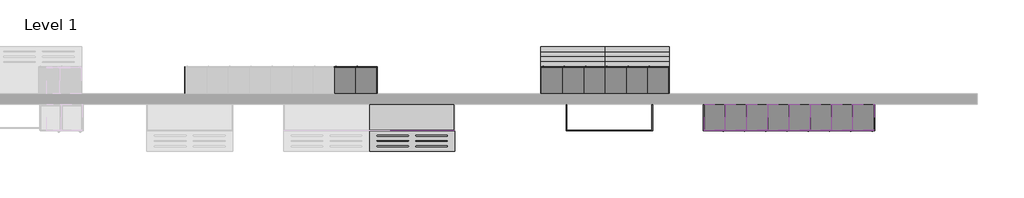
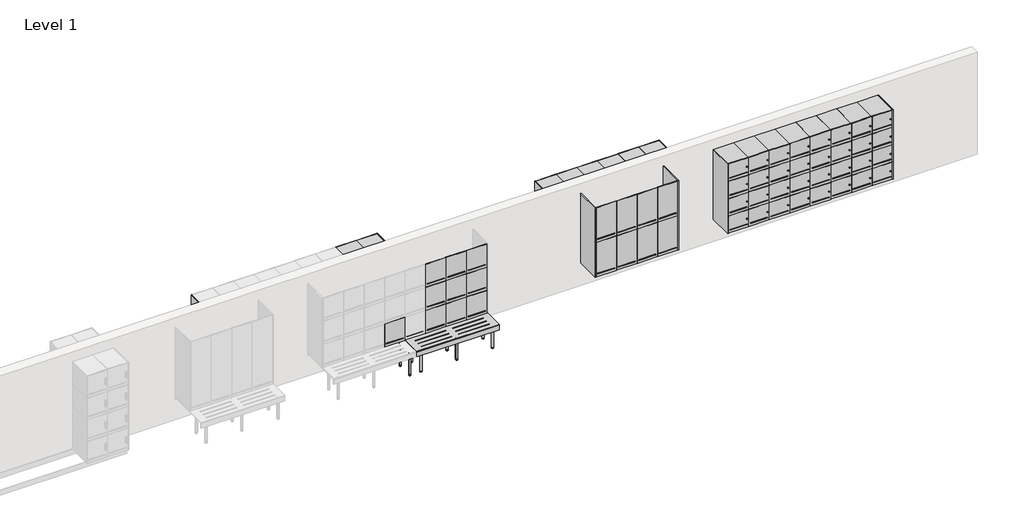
# One storey, part 3 of 3: 128 furniture elements.
"""IFC4 building model written with IfcOpenShell, lengths in millimetres."""

from ifc_helpers import new_model, si_unit, origin, place, context, project, spatial, transform, mapped, element, save
from components import furniture_7293fc8f, furniture_05545089, furniture_83d2262f, furniture_6c30b95b, standard_2dcb62da, standard_f5ae554c, standard_45df0485, standard_98e0e482, standard_13bdcb3e, standard_06cb4884, standard_31d623df, standard_40445af7, standard_a614ba5f, standard_bf09c246, standard_42a54a5f, standard_04b66620

model = new_model("IFC4")

# Units and contexts
model_context = context("Model", 3, world=origin())
ifc_project = project(units=[si_unit("LENGTHUNIT", "METRE", prefix="MILLI")], contexts=[model_context])

# Site, building, storey
site = spatial("IfcSite", under=ifc_project)
building = spatial("IfcBuilding", under=site)
storey = spatial("IfcBuildingStorey", under=building, Name="Level 1", Elevation=0.0)

# Furniture
placement = place(None, origin())
furniture_shape = furniture_7293fc8f(model_context)
element("IfcFurniture", 1, ObjectType="Lockers-Bay-Duracube-Duraloc : LWM-1900h x 500d x 400w @ 470h Wall", at=placement, inside=storey, context=model_context, shape_type="MappedRepresentation", body=[
    mapped(furniture_shape, transform((4264.8424585, 2567.7422336, 0.0), x_axis=(1.0, 0.0, 0.0), y_axis=(0.0, 1.0, 0.0), z_axis=(0.0, 0.0, 1.0))),
])
furniture_2_shape = furniture_05545089(model_context)
element("IfcFurniture", 2, ObjectType="Lockers-Bay-Duracube-Duraloc : LWM-1900h x 500d x 400w @ 470h Wall", at=placement, inside=storey, context=model_context, shape_type="MappedRepresentation", body=[
    mapped(furniture_2_shape, transform((6844.8424585, 2567.7422336, 0.0), x_axis=(1.0, 0.0, 0.0), y_axis=(0.0, 1.0, 0.0), z_axis=(0.0, 0.0, 1.0))),
])
furniture_3_shape = furniture_83d2262f(model_context)
element("IfcFurniture", 3, ObjectType="Lockers-Bay-Duracube-Duraloc : LSBM-1900h x 500d x 400w with 470h Shoe Box Mount", at=placement, inside=storey, context=model_context, shape_type="MappedRepresentation", body=[
    mapped(furniture_3_shape, transform((706.8576586, 3267.7422336, 0.0), x_axis=(-1.0, 0.0, 0.0), y_axis=(0.0, -1.0, 0.0), z_axis=(0.0, 0.0, 1.0))),
])
furniture_4_shape = furniture_6c30b95b(model_context)
element("IfcFurniture", 4, ObjectType="Lockers-Bay-Duracube-Duraloc : LSBSM-1900h x 500d x 400w with 470h Shoe Box Bench", at=placement, inside=storey, context=model_context, shape_type="MappedRepresentation", body=[
    mapped(furniture_4_shape, transform((6206.8576586, 3267.7422336, 0.0), x_axis=(-1.0, 0.0, 0.0), y_axis=(0.0, -1.0, 0.0), z_axis=(0.0, 0.0, 1.0))),
])
standard_shape = standard_2dcb62da(model_context)
element("IfcFurniture", 5, ObjectType="X_Bench-Foot-Duracube-Wall Assembly : Standard", at=placement, inside=storey, context=model_context, shape_type="MappedRepresentation", body=[
    mapped(standard_shape, transform((626.642132, 2317.7422336, 0.0), x_axis=(1.0, 0.0, 0.0), y_axis=(0.0, 1.0, 0.0), z_axis=(0.0, 0.0, 1.0))),
])
element("IfcFurniture", 6, ObjectType="X_Bench-Foot-Duracube-Wall Assembly : Standard", at=placement, inside=storey, context=model_context, shape_type="MappedRepresentation", body=[
    mapped(standard_shape, transform((1319.642132, 2317.7422336, 0.0), x_axis=(1.0, 0.0, 0.0), y_axis=(0.0, 1.0, 0.0), z_axis=(0.0, 0.0, 1.0))),
])
standard_2_shape = standard_f5ae554c(model_context)
element("IfcFurniture", 7, ObjectType="X_Bench-Foot-Duracube-Wall Assembly : Standard", at=placement, inside=storey, context=model_context, shape_type="MappedRepresentation", body=[
    mapped(standard_2_shape, transform((2102.0427849, 2317.7422336, 0.0), x_axis=(-1.0, 0.0, 0.0), y_axis=(0.0, -1.0, 0.0), z_axis=(0.0, 0.0, 1.0))),
])
element("IfcFurniture", 8, ObjectType="X_Bench-Foot-Duracube-Wall Assembly : Standard", at=placement, inside=storey, context=model_context, shape_type="MappedRepresentation", body=[
    mapped(standard_2_shape, transform((489.0427849, 2317.7422336, 0.0), x_axis=(-1.0, 0.0, 0.0), y_axis=(0.0, -1.0, 0.0), z_axis=(0.0, 0.0, 1.0))),
])
standard_3_shape = standard_45df0485(model_context)
element("IfcFurniture", 9, ObjectType="X_Vanity-Angle-Duracube-Bench Support : Standard", at=placement, inside=storey, context=model_context, shape_type="MappedRepresentation", body=[
    mapped(standard_3_shape, transform((1319.642132, 2817.7422336, 417.0), x_axis=(1.0, 0.0, 0.0), y_axis=(0.0, 1.0, 0.0), z_axis=(0.0, 0.0, 1.0))),
])
standard_4_shape = standard_98e0e482(model_context)
element("IfcFurniture", 10, ObjectType="X_Bench-Wall-Duracube-Locker : Standard", at=placement, inside=storey, context=model_context, shape_type="MappedRepresentation", body=[
    mapped(standard_4_shape, transform((1319.642132, 2725.2422336, 0.0), x_axis=(1.0, 0.0, 0.0), y_axis=(0.0, 1.0, 0.0), z_axis=(0.0, 0.0, 1.0))),
])
standard_5_shape = standard_13bdcb3e(model_context)
element("IfcFurniture", 11, ObjectType="X_Vanity-Angle-Duracube-Bench Support : Standard", at=placement, inside=storey, context=model_context, shape_type="MappedRepresentation", body=[
    mapped(standard_5_shape, transform((5645.057985, 3017.7422336, 430.0), x_axis=(-1.0, 0.0, 0.0), y_axis=(0.0, -1.0, 0.0), z_axis=(0.0, 0.0, 1.0))),
])
element("IfcFurniture", 12, ObjectType="X_Vanity-Angle-Duracube-Bench Support : Standard", at=placement, inside=storey, context=model_context, shape_type="MappedRepresentation", body=[
    mapped(standard_5_shape, transform((4432.057985, 3017.7422336, 430.0), x_axis=(-1.0, 0.0, 0.0), y_axis=(0.0, -1.0, 0.0), z_axis=(0.0, 0.0, 1.0))),
])
standard_6_shape = standard_06cb4884(model_context)
element("IfcFurniture", 13, ObjectType="X_Locker-Duracube-Door : Standard", at=placement, inside=storey, context=model_context, shape_type="MappedRepresentation", body=[
    mapped(standard_6_shape, transform((1913.142132, 2330.7422336, 1423.3333333), x_axis=(1.0, 0.0, 0.0), y_axis=(0.0, 1.0, 0.0), z_axis=(0.0, 0.0, 1.0))),
])
element("IfcFurniture", 14, ObjectType="X_Locker-Duracube-Door : Standard", at=placement, inside=storey, context=model_context, shape_type="MappedRepresentation", body=[
    mapped(standard_6_shape, transform((1513.142132, 2330.7422336, 1423.3333333), x_axis=(1.0, 0.0, 0.0), y_axis=(0.0, 1.0, 0.0), z_axis=(0.0, 0.0, 1.0))),
])
element("IfcFurniture", 15, ObjectType="X_Locker-Duracube-Door : Standard", at=placement, inside=storey, context=model_context, shape_type="MappedRepresentation", body=[
    mapped(standard_6_shape, transform((1113.142132, 2330.7422336, 1423.3333333), x_axis=(1.0, 0.0, 0.0), y_axis=(0.0, 1.0, 0.0), z_axis=(0.0, 0.0, 1.0))),
])
element("IfcFurniture", 16, ObjectType="X_Locker-Duracube-Door : Standard", at=placement, inside=storey, context=model_context, shape_type="MappedRepresentation", body=[
    mapped(standard_6_shape, transform((1913.142132, 2330.7422336, 946.6666667), x_axis=(1.0, 0.0, 0.0), y_axis=(0.0, 1.0, 0.0), z_axis=(0.0, 0.0, 1.0))),
])
element("IfcFurniture", 17, ObjectType="X_Locker-Duracube-Door : Standard", at=placement, inside=storey, context=model_context, shape_type="MappedRepresentation", body=[
    mapped(standard_6_shape, transform((1513.142132, 2330.7422336, 946.6666667), x_axis=(1.0, 0.0, 0.0), y_axis=(0.0, 1.0, 0.0), z_axis=(0.0, 0.0, 1.0))),
])
element("IfcFurniture", 18, ObjectType="X_Locker-Duracube-Door : Standard", at=placement, inside=storey, context=model_context, shape_type="MappedRepresentation", body=[
    mapped(standard_6_shape, transform((1113.142132, 2330.7422336, 946.6666667), x_axis=(1.0, 0.0, 0.0), y_axis=(0.0, 1.0, 0.0), z_axis=(0.0, 0.0, 1.0))),
])
element("IfcFurniture", 19, ObjectType="X_Locker-Duracube-Door : Standard", at=placement, inside=storey, context=model_context, shape_type="MappedRepresentation", body=[
    mapped(standard_6_shape, transform((1913.142132, 2330.7422336, 470.0), x_axis=(1.0, 0.0, 0.0), y_axis=(0.0, 1.0, 0.0), z_axis=(0.0, 0.0, 1.0))),
])
element("IfcFurniture", 20, ObjectType="X_Locker-Duracube-Door : Standard", at=placement, inside=storey, context=model_context, shape_type="MappedRepresentation", body=[
    mapped(standard_6_shape, transform((1513.142132, 2330.7422336, 470.0), x_axis=(1.0, 0.0, 0.0), y_axis=(0.0, 1.0, 0.0), z_axis=(0.0, 0.0, 1.0))),
])
element("IfcFurniture", 21, ObjectType="X_Locker-Duracube-Door : Standard", at=placement, inside=storey, context=model_context, shape_type="MappedRepresentation", body=[
    mapped(standard_6_shape, transform((1113.142132, 2330.7422336, 470.0), x_axis=(1.0, 0.0, 0.0), y_axis=(0.0, 1.0, 0.0), z_axis=(0.0, 0.0, 1.0))),
])
element("IfcFurniture", 22, ObjectType="X_Locker-Duracube-Door : Standard", at=placement, inside=storey, context=model_context, shape_type="MappedRepresentation", body=[
    mapped(standard_6_shape, transform((313.142132, 2330.7422336, 470.0), x_axis=(1.0, 0.0, 0.0), y_axis=(0.0, 1.0, 0.0), z_axis=(0.0, 0.0, 1.0))),
])
standard_7_shape = standard_31d623df(model_context)
element("IfcFurniture", 23, ObjectType="X_Locker-Duracube-Door : Standard", at=placement, inside=storey, context=model_context, shape_type="MappedRepresentation", body=[
    mapped(standard_7_shape, transform((5633.142132, 2330.7422336, 1185.0), x_axis=(1.0, 0.0, 0.0), y_axis=(0.0, 1.0, 0.0), z_axis=(0.0, 0.0, 1.0))),
])
element("IfcFurniture", 24, ObjectType="X_Locker-Duracube-Door : Standard", at=placement, inside=storey, context=model_context, shape_type="MappedRepresentation", body=[
    mapped(standard_7_shape, transform((5233.142132, 2330.7422336, 1185.0), x_axis=(1.0, 0.0, 0.0), y_axis=(0.0, 1.0, 0.0), z_axis=(0.0, 0.0, 1.0))),
])
element("IfcFurniture", 25, ObjectType="X_Locker-Duracube-Door : Standard", at=placement, inside=storey, context=model_context, shape_type="MappedRepresentation", body=[
    mapped(standard_7_shape, transform((5633.142132, 2330.7422336, 470.0), x_axis=(1.0, 0.0, 0.0), y_axis=(0.0, 1.0, 0.0), z_axis=(0.0, 0.0, 1.0))),
])
element("IfcFurniture", 26, ObjectType="X_Locker-Duracube-Door : Standard", at=placement, inside=storey, context=model_context, shape_type="MappedRepresentation", body=[
    mapped(standard_7_shape, transform((5233.142132, 2330.7422336, 470.0), x_axis=(1.0, 0.0, 0.0), y_axis=(0.0, 1.0, 0.0), z_axis=(0.0, 0.0, 1.0))),
])
element("IfcFurniture", 27, ObjectType="X_Locker-Duracube-Door : Standard", at=placement, inside=storey, context=model_context, shape_type="MappedRepresentation", body=[
    mapped(standard_7_shape, transform((4833.142132, 2330.7422336, 1185.0), x_axis=(1.0, 0.0, 0.0), y_axis=(0.0, 1.0, 0.0), z_axis=(0.0, 0.0, 1.0))),
])
element("IfcFurniture", 28, ObjectType="X_Locker-Duracube-Door : Standard", at=placement, inside=storey, context=model_context, shape_type="MappedRepresentation", body=[
    mapped(standard_7_shape, transform((4833.142132, 2330.7422336, 470.0), x_axis=(1.0, 0.0, 0.0), y_axis=(0.0, 1.0, 0.0), z_axis=(0.0, 0.0, 1.0))),
])
element("IfcFurniture", 29, ObjectType="X_Locker-Duracube-Door : Standard", at=placement, inside=storey, context=model_context, shape_type="MappedRepresentation", body=[
    mapped(standard_7_shape, transform((4433.142132, 2330.7422336, 1185.0), x_axis=(1.0, 0.0, 0.0), y_axis=(0.0, 1.0, 0.0), z_axis=(0.0, 0.0, 1.0))),
])
element("IfcFurniture", 30, ObjectType="X_Locker-Duracube-Door : Standard", at=placement, inside=storey, context=model_context, shape_type="MappedRepresentation", body=[
    mapped(standard_7_shape, transform((4433.142132, 2330.7422336, 470.0), x_axis=(1.0, 0.0, 0.0), y_axis=(0.0, 1.0, 0.0), z_axis=(0.0, 0.0, 1.0))),
])
element("IfcFurniture", 31, ObjectType="X_Locker-Duracube-Door : Standard", at=placement, inside=storey, context=model_context, shape_type="MappedRepresentation", body=[
    mapped(standard_7_shape, transform((138.557985, 3504.7422336, 1185.0), x_axis=(-1.0, 0.0, 0.0), y_axis=(0.0, -1.0, 0.0), z_axis=(0.0, 0.0, 1.0))),
])
element("IfcFurniture", 32, ObjectType="X_Locker-Duracube-Door : Standard", at=placement, inside=storey, context=model_context, shape_type="MappedRepresentation", body=[
    mapped(standard_7_shape, transform((138.557985, 3504.7422336, 470.0), x_axis=(-1.0, 0.0, 0.0), y_axis=(0.0, -1.0, 0.0), z_axis=(0.0, 0.0, 1.0))),
])
element("IfcFurniture", 33, ObjectType="X_Locker-Duracube-Door : Standard", at=placement, inside=storey, context=model_context, shape_type="MappedRepresentation", body=[
    mapped(standard_7_shape, transform((538.557985, 3504.7422336, 1185.0), x_axis=(-1.0, 0.0, 0.0), y_axis=(0.0, -1.0, 0.0), z_axis=(0.0, 0.0, 1.0))),
])
element("IfcFurniture", 34, ObjectType="X_Locker-Duracube-Door : Standard", at=placement, inside=storey, context=model_context, shape_type="MappedRepresentation", body=[
    mapped(standard_7_shape, transform((538.557985, 3504.7422336, 470.0), x_axis=(-1.0, 0.0, 0.0), y_axis=(0.0, -1.0, 0.0), z_axis=(0.0, 0.0, 1.0))),
])
element("IfcFurniture", 35, ObjectType="X_Locker-Duracube-Door : Standard", at=placement, inside=storey, context=model_context, shape_type="MappedRepresentation", body=[
    mapped(standard_7_shape, transform((4038.557985, 3504.7422336, 1185.0), x_axis=(-1.0, 0.0, 0.0), y_axis=(0.0, -1.0, 0.0), z_axis=(0.0, 0.0, 1.0))),
])
element("IfcFurniture", 36, ObjectType="X_Locker-Duracube-Door : Standard", at=placement, inside=storey, context=model_context, shape_type="MappedRepresentation", body=[
    mapped(standard_7_shape, transform((4438.557985, 3504.7422336, 1185.0), x_axis=(-1.0, 0.0, 0.0), y_axis=(0.0, -1.0, 0.0), z_axis=(0.0, 0.0, 1.0))),
])
element("IfcFurniture", 37, ObjectType="X_Locker-Duracube-Door : Standard", at=placement, inside=storey, context=model_context, shape_type="MappedRepresentation", body=[
    mapped(standard_7_shape, transform((4838.557985, 3504.7422336, 1185.0), x_axis=(-1.0, 0.0, 0.0), y_axis=(0.0, -1.0, 0.0), z_axis=(0.0, 0.0, 1.0))),
])
element("IfcFurniture", 38, ObjectType="X_Locker-Duracube-Door : Standard", at=placement, inside=storey, context=model_context, shape_type="MappedRepresentation", body=[
    mapped(standard_7_shape, transform((5238.557985, 3504.7422336, 1185.0), x_axis=(-1.0, 0.0, 0.0), y_axis=(0.0, -1.0, 0.0), z_axis=(0.0, 0.0, 1.0))),
])
element("IfcFurniture", 39, ObjectType="X_Locker-Duracube-Door : Standard", at=placement, inside=storey, context=model_context, shape_type="MappedRepresentation", body=[
    mapped(standard_7_shape, transform((4038.557985, 3504.7422336, 470.0), x_axis=(-1.0, 0.0, 0.0), y_axis=(0.0, -1.0, 0.0), z_axis=(0.0, 0.0, 1.0))),
])
element("IfcFurniture", 40, ObjectType="X_Locker-Duracube-Door : Standard", at=placement, inside=storey, context=model_context, shape_type="MappedRepresentation", body=[
    mapped(standard_7_shape, transform((4438.557985, 3504.7422336, 470.0), x_axis=(-1.0, 0.0, 0.0), y_axis=(0.0, -1.0, 0.0), z_axis=(0.0, 0.0, 1.0))),
])
element("IfcFurniture", 41, ObjectType="X_Locker-Duracube-Door : Standard", at=placement, inside=storey, context=model_context, shape_type="MappedRepresentation", body=[
    mapped(standard_7_shape, transform((4838.557985, 3504.7422336, 470.0), x_axis=(-1.0, 0.0, 0.0), y_axis=(0.0, -1.0, 0.0), z_axis=(0.0, 0.0, 1.0))),
])
element("IfcFurniture", 42, ObjectType="X_Locker-Duracube-Door : Standard", at=placement, inside=storey, context=model_context, shape_type="MappedRepresentation", body=[
    mapped(standard_7_shape, transform((5238.557985, 3504.7422336, 470.0), x_axis=(-1.0, 0.0, 0.0), y_axis=(0.0, -1.0, 0.0), z_axis=(0.0, 0.0, 1.0))),
])
element("IfcFurniture", 43, ObjectType="X_Locker-Duracube-Door : Standard", at=placement, inside=storey, context=model_context, shape_type="MappedRepresentation", body=[
    mapped(standard_7_shape, transform((5638.557985, 3504.7422336, 1185.0), x_axis=(-1.0, 0.0, 0.0), y_axis=(0.0, -1.0, 0.0), z_axis=(0.0, 0.0, 1.0))),
])
element("IfcFurniture", 44, ObjectType="X_Locker-Duracube-Door : Standard", at=placement, inside=storey, context=model_context, shape_type="MappedRepresentation", body=[
    mapped(standard_7_shape, transform((5638.557985, 3504.7422336, 470.0), x_axis=(-1.0, 0.0, 0.0), y_axis=(0.0, -1.0, 0.0), z_axis=(0.0, 0.0, 1.0))),
])
element("IfcFurniture", 45, ObjectType="X_Locker-Duracube-Door : Standard", at=placement, inside=storey, context=model_context, shape_type="MappedRepresentation", body=[
    mapped(standard_7_shape, transform((6038.557985, 3504.7422336, 1185.0), x_axis=(-1.0, 0.0, 0.0), y_axis=(0.0, -1.0, 0.0), z_axis=(0.0, 0.0, 1.0))),
])
element("IfcFurniture", 46, ObjectType="X_Locker-Duracube-Door : Standard", at=placement, inside=storey, context=model_context, shape_type="MappedRepresentation", body=[
    mapped(standard_7_shape, transform((6038.557985, 3504.7422336, 470.0), x_axis=(-1.0, 0.0, 0.0), y_axis=(0.0, -1.0, 0.0), z_axis=(0.0, 0.0, 1.0))),
])
standard_8_shape = standard_40445af7(model_context)
element("IfcFurniture", 47, ObjectType="X_Locker-Duracube-Bay : Standard", at=placement, inside=storey, context=model_context, shape_type="MappedRepresentation", body=[
    mapped(standard_8_shape, transform((9813.142132, 2817.7422336, 1542.5), x_axis=(1.0, 0.0, 0.0), y_axis=(0.0, 1.0, 0.0), z_axis=(0.0, 0.0, 1.0))),
])
element("IfcFurniture", 48, ObjectType="X_Locker-Duracube-Bay : Standard", at=placement, inside=storey, context=model_context, shape_type="MappedRepresentation", body=[
    mapped(standard_8_shape, transform((9413.142132, 2817.7422336, 1542.5), x_axis=(1.0, 0.0, 0.0), y_axis=(0.0, 1.0, 0.0), z_axis=(0.0, 0.0, 1.0))),
])
element("IfcFurniture", 49, ObjectType="X_Locker-Duracube-Bay : Standard", at=placement, inside=storey, context=model_context, shape_type="MappedRepresentation", body=[
    mapped(standard_8_shape, transform((9013.142132, 2817.7422336, 1542.5), x_axis=(1.0, 0.0, 0.0), y_axis=(0.0, 1.0, 0.0), z_axis=(0.0, 0.0, 1.0))),
])
element("IfcFurniture", 50, ObjectType="X_Locker-Duracube-Bay : Standard", at=placement, inside=storey, context=model_context, shape_type="MappedRepresentation", body=[
    mapped(standard_8_shape, transform((8613.142132, 2817.7422336, 1542.5), x_axis=(1.0, 0.0, 0.0), y_axis=(0.0, 1.0, 0.0), z_axis=(0.0, 0.0, 1.0))),
])
element("IfcFurniture", 51, ObjectType="X_Locker-Duracube-Bay : Standard", at=placement, inside=storey, context=model_context, shape_type="MappedRepresentation", body=[
    mapped(standard_8_shape, transform((8213.142132, 2817.7422336, 1542.5), x_axis=(1.0, 0.0, 0.0), y_axis=(0.0, 1.0, 0.0), z_axis=(0.0, 0.0, 1.0))),
])
element("IfcFurniture", 52, ObjectType="X_Locker-Duracube-Bay : Standard", at=placement, inside=storey, context=model_context, shape_type="MappedRepresentation", body=[
    mapped(standard_8_shape, transform((7813.142132, 2817.7422336, 1542.5), x_axis=(1.0, 0.0, 0.0), y_axis=(0.0, 1.0, 0.0), z_axis=(0.0, 0.0, 1.0))),
])
element("IfcFurniture", 53, ObjectType="X_Locker-Duracube-Bay : Standard", at=placement, inside=storey, context=model_context, shape_type="MappedRepresentation", body=[
    mapped(standard_8_shape, transform((9813.142132, 2817.7422336, 1185.0), x_axis=(1.0, 0.0, 0.0), y_axis=(0.0, 1.0, 0.0), z_axis=(0.0, 0.0, 1.0))),
])
element("IfcFurniture", 54, ObjectType="X_Locker-Duracube-Bay : Standard", at=placement, inside=storey, context=model_context, shape_type="MappedRepresentation", body=[
    mapped(standard_8_shape, transform((9413.142132, 2817.7422336, 1185.0), x_axis=(1.0, 0.0, 0.0), y_axis=(0.0, 1.0, 0.0), z_axis=(0.0, 0.0, 1.0))),
])
element("IfcFurniture", 55, ObjectType="X_Locker-Duracube-Bay : Standard", at=placement, inside=storey, context=model_context, shape_type="MappedRepresentation", body=[
    mapped(standard_8_shape, transform((9013.142132, 2817.7422336, 1185.0), x_axis=(1.0, 0.0, 0.0), y_axis=(0.0, 1.0, 0.0), z_axis=(0.0, 0.0, 1.0))),
])
element("IfcFurniture", 56, ObjectType="X_Locker-Duracube-Bay : Standard", at=placement, inside=storey, context=model_context, shape_type="MappedRepresentation", body=[
    mapped(standard_8_shape, transform((8613.142132, 2817.7422336, 1185.0), x_axis=(1.0, 0.0, 0.0), y_axis=(0.0, 1.0, 0.0), z_axis=(0.0, 0.0, 1.0))),
])
element("IfcFurniture", 57, ObjectType="X_Locker-Duracube-Bay : Standard", at=placement, inside=storey, context=model_context, shape_type="MappedRepresentation", body=[
    mapped(standard_8_shape, transform((8213.142132, 2817.7422336, 1185.0), x_axis=(1.0, 0.0, 0.0), y_axis=(0.0, 1.0, 0.0), z_axis=(0.0, 0.0, 1.0))),
])
element("IfcFurniture", 58, ObjectType="X_Locker-Duracube-Bay : Standard", at=placement, inside=storey, context=model_context, shape_type="MappedRepresentation", body=[
    mapped(standard_8_shape, transform((7813.142132, 2817.7422336, 1185.0), x_axis=(1.0, 0.0, 0.0), y_axis=(0.0, 1.0, 0.0), z_axis=(0.0, 0.0, 1.0))),
])
element("IfcFurniture", 59, ObjectType="X_Locker-Duracube-Bay : Standard", at=placement, inside=storey, context=model_context, shape_type="MappedRepresentation", body=[
    mapped(standard_8_shape, transform((9813.142132, 2817.7422336, 827.5), x_axis=(1.0, 0.0, 0.0), y_axis=(0.0, 1.0, 0.0), z_axis=(0.0, 0.0, 1.0))),
])
element("IfcFurniture", 60, ObjectType="X_Locker-Duracube-Bay : Standard", at=placement, inside=storey, context=model_context, shape_type="MappedRepresentation", body=[
    mapped(standard_8_shape, transform((9413.142132, 2817.7422336, 827.5), x_axis=(1.0, 0.0, 0.0), y_axis=(0.0, 1.0, 0.0), z_axis=(0.0, 0.0, 1.0))),
])
element("IfcFurniture", 61, ObjectType="X_Locker-Duracube-Bay : Standard", at=placement, inside=storey, context=model_context, shape_type="MappedRepresentation", body=[
    mapped(standard_8_shape, transform((9013.142132, 2817.7422336, 827.5), x_axis=(1.0, 0.0, 0.0), y_axis=(0.0, 1.0, 0.0), z_axis=(0.0, 0.0, 1.0))),
])
element("IfcFurniture", 62, ObjectType="X_Locker-Duracube-Bay : Standard", at=placement, inside=storey, context=model_context, shape_type="MappedRepresentation", body=[
    mapped(standard_8_shape, transform((8613.142132, 2817.7422336, 827.5), x_axis=(1.0, 0.0, 0.0), y_axis=(0.0, 1.0, 0.0), z_axis=(0.0, 0.0, 1.0))),
])
element("IfcFurniture", 63, ObjectType="X_Locker-Duracube-Bay : Standard", at=placement, inside=storey, context=model_context, shape_type="MappedRepresentation", body=[
    mapped(standard_8_shape, transform((8213.142132, 2817.7422336, 827.5), x_axis=(1.0, 0.0, 0.0), y_axis=(0.0, 1.0, 0.0), z_axis=(0.0, 0.0, 1.0))),
])
element("IfcFurniture", 64, ObjectType="X_Locker-Duracube-Bay : Standard", at=placement, inside=storey, context=model_context, shape_type="MappedRepresentation", body=[
    mapped(standard_8_shape, transform((7813.142132, 2817.7422336, 827.5), x_axis=(1.0, 0.0, 0.0), y_axis=(0.0, 1.0, 0.0), z_axis=(0.0, 0.0, 1.0))),
])
element("IfcFurniture", 65, ObjectType="X_Locker-Duracube-Bay : Standard", at=placement, inside=storey, context=model_context, shape_type="MappedRepresentation", body=[
    mapped(standard_8_shape, transform((9813.142132, 2817.7422336, 470.0), x_axis=(1.0, 0.0, 0.0), y_axis=(0.0, 1.0, 0.0), z_axis=(0.0, 0.0, 1.0))),
])
element("IfcFurniture", 66, ObjectType="X_Locker-Duracube-Bay : Standard", at=placement, inside=storey, context=model_context, shape_type="MappedRepresentation", body=[
    mapped(standard_8_shape, transform((9413.142132, 2817.7422336, 470.0), x_axis=(1.0, 0.0, 0.0), y_axis=(0.0, 1.0, 0.0), z_axis=(0.0, 0.0, 1.0))),
])
element("IfcFurniture", 67, ObjectType="X_Locker-Duracube-Bay : Standard", at=placement, inside=storey, context=model_context, shape_type="MappedRepresentation", body=[
    mapped(standard_8_shape, transform((9013.142132, 2817.7422336, 470.0), x_axis=(1.0, 0.0, 0.0), y_axis=(0.0, 1.0, 0.0), z_axis=(0.0, 0.0, 1.0))),
])
element("IfcFurniture", 68, ObjectType="X_Locker-Duracube-Bay : Standard", at=placement, inside=storey, context=model_context, shape_type="MappedRepresentation", body=[
    mapped(standard_8_shape, transform((8613.142132, 2817.7422336, 470.0), x_axis=(1.0, 0.0, 0.0), y_axis=(0.0, 1.0, 0.0), z_axis=(0.0, 0.0, 1.0))),
])
element("IfcFurniture", 69, ObjectType="X_Locker-Duracube-Bay : Standard", at=placement, inside=storey, context=model_context, shape_type="MappedRepresentation", body=[
    mapped(standard_8_shape, transform((8213.142132, 2817.7422336, 470.0), x_axis=(1.0, 0.0, 0.0), y_axis=(0.0, 1.0, 0.0), z_axis=(0.0, 0.0, 1.0))),
])
element("IfcFurniture", 70, ObjectType="X_Locker-Duracube-Bay : Standard", at=placement, inside=storey, context=model_context, shape_type="MappedRepresentation", body=[
    mapped(standard_8_shape, transform((7813.142132, 2817.7422336, 470.0), x_axis=(1.0, 0.0, 0.0), y_axis=(0.0, 1.0, 0.0), z_axis=(0.0, 0.0, 1.0))),
])
element("IfcFurniture", 71, ObjectType="X_Locker-Duracube-Bay : Standard", at=placement, inside=storey, context=model_context, shape_type="MappedRepresentation", body=[
    mapped(standard_8_shape, transform((7413.142132, 2817.7422336, 1542.5), x_axis=(1.0, 0.0, 0.0), y_axis=(0.0, 1.0, 0.0), z_axis=(0.0, 0.0, 1.0))),
])
element("IfcFurniture", 72, ObjectType="X_Locker-Duracube-Bay : Standard", at=placement, inside=storey, context=model_context, shape_type="MappedRepresentation", body=[
    mapped(standard_8_shape, transform((7413.142132, 2817.7422336, 1185.0), x_axis=(1.0, 0.0, 0.0), y_axis=(0.0, 1.0, 0.0), z_axis=(0.0, 0.0, 1.0))),
])
element("IfcFurniture", 73, ObjectType="X_Locker-Duracube-Bay : Standard", at=placement, inside=storey, context=model_context, shape_type="MappedRepresentation", body=[
    mapped(standard_8_shape, transform((7413.142132, 2817.7422336, 827.5), x_axis=(1.0, 0.0, 0.0), y_axis=(0.0, 1.0, 0.0), z_axis=(0.0, 0.0, 1.0))),
])
element("IfcFurniture", 74, ObjectType="X_Locker-Duracube-Bay : Standard", at=placement, inside=storey, context=model_context, shape_type="MappedRepresentation", body=[
    mapped(standard_8_shape, transform((7413.142132, 2817.7422336, 470.0), x_axis=(1.0, 0.0, 0.0), y_axis=(0.0, 1.0, 0.0), z_axis=(0.0, 0.0, 1.0))),
])
element("IfcFurniture", 75, ObjectType="X_Locker-Duracube-Bay : Standard", at=placement, inside=storey, context=model_context, shape_type="MappedRepresentation", body=[
    mapped(standard_8_shape, transform((7013.142132, 2817.7422336, 1542.5), x_axis=(1.0, 0.0, 0.0), y_axis=(0.0, 1.0, 0.0), z_axis=(0.0, 0.0, 1.0))),
])
element("IfcFurniture", 76, ObjectType="X_Locker-Duracube-Bay : Standard", at=placement, inside=storey, context=model_context, shape_type="MappedRepresentation", body=[
    mapped(standard_8_shape, transform((7013.142132, 2817.7422336, 1185.0), x_axis=(1.0, 0.0, 0.0), y_axis=(0.0, 1.0, 0.0), z_axis=(0.0, 0.0, 1.0))),
])
element("IfcFurniture", 77, ObjectType="X_Locker-Duracube-Bay : Standard", at=placement, inside=storey, context=model_context, shape_type="MappedRepresentation", body=[
    mapped(standard_8_shape, transform((7013.142132, 2817.7422336, 827.5), x_axis=(1.0, 0.0, 0.0), y_axis=(0.0, 1.0, 0.0), z_axis=(0.0, 0.0, 1.0))),
])
element("IfcFurniture", 78, ObjectType="X_Locker-Duracube-Bay : Standard", at=placement, inside=storey, context=model_context, shape_type="MappedRepresentation", body=[
    mapped(standard_8_shape, transform((7013.142132, 2817.7422336, 470.0), x_axis=(1.0, 0.0, 0.0), y_axis=(0.0, 1.0, 0.0), z_axis=(0.0, 0.0, 1.0))),
])
standard_9_shape = standard_a614ba5f(model_context)
element("IfcFurniture", 79, ObjectType="X_Locker-Duracube-Door : Standard", at=placement, inside=storey, context=model_context, shape_type="MappedRepresentation", body=[
    mapped(standard_9_shape, transform((9813.142132, 2330.7422336, 1542.5), x_axis=(1.0, 0.0, 0.0), y_axis=(0.0, 1.0, 0.0), z_axis=(0.0, 0.0, 1.0))),
])
element("IfcFurniture", 80, ObjectType="X_Locker-Duracube-Door : Standard", at=placement, inside=storey, context=model_context, shape_type="MappedRepresentation", body=[
    mapped(standard_9_shape, transform((9413.142132, 2330.7422336, 1542.5), x_axis=(1.0, 0.0, 0.0), y_axis=(0.0, 1.0, 0.0), z_axis=(0.0, 0.0, 1.0))),
])
element("IfcFurniture", 81, ObjectType="X_Locker-Duracube-Door : Standard", at=placement, inside=storey, context=model_context, shape_type="MappedRepresentation", body=[
    mapped(standard_9_shape, transform((9013.142132, 2330.7422336, 1542.5), x_axis=(1.0, 0.0, 0.0), y_axis=(0.0, 1.0, 0.0), z_axis=(0.0, 0.0, 1.0))),
])
element("IfcFurniture", 82, ObjectType="X_Locker-Duracube-Door : Standard", at=placement, inside=storey, context=model_context, shape_type="MappedRepresentation", body=[
    mapped(standard_9_shape, transform((8613.142132, 2330.7422336, 1542.5), x_axis=(1.0, 0.0, 0.0), y_axis=(0.0, 1.0, 0.0), z_axis=(0.0, 0.0, 1.0))),
])
element("IfcFurniture", 83, ObjectType="X_Locker-Duracube-Door : Standard", at=placement, inside=storey, context=model_context, shape_type="MappedRepresentation", body=[
    mapped(standard_9_shape, transform((8213.142132, 2330.7422336, 1542.5), x_axis=(1.0, 0.0, 0.0), y_axis=(0.0, 1.0, 0.0), z_axis=(0.0, 0.0, 1.0))),
])
element("IfcFurniture", 84, ObjectType="X_Locker-Duracube-Door : Standard", at=placement, inside=storey, context=model_context, shape_type="MappedRepresentation", body=[
    mapped(standard_9_shape, transform((7813.142132, 2330.7422336, 1542.5), x_axis=(1.0, 0.0, 0.0), y_axis=(0.0, 1.0, 0.0), z_axis=(0.0, 0.0, 1.0))),
])
element("IfcFurniture", 85, ObjectType="X_Locker-Duracube-Door : Standard", at=placement, inside=storey, context=model_context, shape_type="MappedRepresentation", body=[
    mapped(standard_9_shape, transform((9813.142132, 2330.7422336, 1185.0), x_axis=(1.0, 0.0, 0.0), y_axis=(0.0, 1.0, 0.0), z_axis=(0.0, 0.0, 1.0))),
])
element("IfcFurniture", 86, ObjectType="X_Locker-Duracube-Door : Standard", at=placement, inside=storey, context=model_context, shape_type="MappedRepresentation", body=[
    mapped(standard_9_shape, transform((9413.142132, 2330.7422336, 1185.0), x_axis=(1.0, 0.0, 0.0), y_axis=(0.0, 1.0, 0.0), z_axis=(0.0, 0.0, 1.0))),
])
element("IfcFurniture", 87, ObjectType="X_Locker-Duracube-Door : Standard", at=placement, inside=storey, context=model_context, shape_type="MappedRepresentation", body=[
    mapped(standard_9_shape, transform((9013.142132, 2330.7422336, 1185.0), x_axis=(1.0, 0.0, 0.0), y_axis=(0.0, 1.0, 0.0), z_axis=(0.0, 0.0, 1.0))),
])
element("IfcFurniture", 88, ObjectType="X_Locker-Duracube-Door : Standard", at=placement, inside=storey, context=model_context, shape_type="MappedRepresentation", body=[
    mapped(standard_9_shape, transform((8613.142132, 2330.7422336, 1185.0), x_axis=(1.0, 0.0, 0.0), y_axis=(0.0, 1.0, 0.0), z_axis=(0.0, 0.0, 1.0))),
])
element("IfcFurniture", 89, ObjectType="X_Locker-Duracube-Door : Standard", at=placement, inside=storey, context=model_context, shape_type="MappedRepresentation", body=[
    mapped(standard_9_shape, transform((8213.142132, 2330.7422336, 1185.0), x_axis=(1.0, 0.0, 0.0), y_axis=(0.0, 1.0, 0.0), z_axis=(0.0, 0.0, 1.0))),
])
element("IfcFurniture", 90, ObjectType="X_Locker-Duracube-Door : Standard", at=placement, inside=storey, context=model_context, shape_type="MappedRepresentation", body=[
    mapped(standard_9_shape, transform((7813.142132, 2330.7422336, 1185.0), x_axis=(1.0, 0.0, 0.0), y_axis=(0.0, 1.0, 0.0), z_axis=(0.0, 0.0, 1.0))),
])
element("IfcFurniture", 91, ObjectType="X_Locker-Duracube-Door : Standard", at=placement, inside=storey, context=model_context, shape_type="MappedRepresentation", body=[
    mapped(standard_9_shape, transform((9813.142132, 2330.7422336, 827.5), x_axis=(1.0, 0.0, 0.0), y_axis=(0.0, 1.0, 0.0), z_axis=(0.0, 0.0, 1.0))),
])
element("IfcFurniture", 92, ObjectType="X_Locker-Duracube-Door : Standard", at=placement, inside=storey, context=model_context, shape_type="MappedRepresentation", body=[
    mapped(standard_9_shape, transform((9413.142132, 2330.7422336, 827.5), x_axis=(1.0, 0.0, 0.0), y_axis=(0.0, 1.0, 0.0), z_axis=(0.0, 0.0, 1.0))),
])
element("IfcFurniture", 93, ObjectType="X_Locker-Duracube-Door : Standard", at=placement, inside=storey, context=model_context, shape_type="MappedRepresentation", body=[
    mapped(standard_9_shape, transform((9013.142132, 2330.7422336, 827.5), x_axis=(1.0, 0.0, 0.0), y_axis=(0.0, 1.0, 0.0), z_axis=(0.0, 0.0, 1.0))),
])
element("IfcFurniture", 94, ObjectType="X_Locker-Duracube-Door : Standard", at=placement, inside=storey, context=model_context, shape_type="MappedRepresentation", body=[
    mapped(standard_9_shape, transform((8613.142132, 2330.7422336, 827.5), x_axis=(1.0, 0.0, 0.0), y_axis=(0.0, 1.0, 0.0), z_axis=(0.0, 0.0, 1.0))),
])
element("IfcFurniture", 95, ObjectType="X_Locker-Duracube-Door : Standard", at=placement, inside=storey, context=model_context, shape_type="MappedRepresentation", body=[
    mapped(standard_9_shape, transform((8213.142132, 2330.7422336, 827.5), x_axis=(1.0, 0.0, 0.0), y_axis=(0.0, 1.0, 0.0), z_axis=(0.0, 0.0, 1.0))),
])
element("IfcFurniture", 96, ObjectType="X_Locker-Duracube-Door : Standard", at=placement, inside=storey, context=model_context, shape_type="MappedRepresentation", body=[
    mapped(standard_9_shape, transform((7813.142132, 2330.7422336, 827.5), x_axis=(1.0, 0.0, 0.0), y_axis=(0.0, 1.0, 0.0), z_axis=(0.0, 0.0, 1.0))),
])
element("IfcFurniture", 97, ObjectType="X_Locker-Duracube-Door : Standard", at=placement, inside=storey, context=model_context, shape_type="MappedRepresentation", body=[
    mapped(standard_9_shape, transform((9813.142132, 2330.7422336, 470.0), x_axis=(1.0, 0.0, 0.0), y_axis=(0.0, 1.0, 0.0), z_axis=(0.0, 0.0, 1.0))),
])
element("IfcFurniture", 98, ObjectType="X_Locker-Duracube-Door : Standard", at=placement, inside=storey, context=model_context, shape_type="MappedRepresentation", body=[
    mapped(standard_9_shape, transform((9413.142132, 2330.7422336, 470.0), x_axis=(1.0, 0.0, 0.0), y_axis=(0.0, 1.0, 0.0), z_axis=(0.0, 0.0, 1.0))),
])
element("IfcFurniture", 99, ObjectType="X_Locker-Duracube-Door : Standard", at=placement, inside=storey, context=model_context, shape_type="MappedRepresentation", body=[
    mapped(standard_9_shape, transform((9013.142132, 2330.7422336, 470.0), x_axis=(1.0, 0.0, 0.0), y_axis=(0.0, 1.0, 0.0), z_axis=(0.0, 0.0, 1.0))),
])
element("IfcFurniture", 100, ObjectType="X_Locker-Duracube-Door : Standard", at=placement, inside=storey, context=model_context, shape_type="MappedRepresentation", body=[
    mapped(standard_9_shape, transform((8613.142132, 2330.7422336, 470.0), x_axis=(1.0, 0.0, 0.0), y_axis=(0.0, 1.0, 0.0), z_axis=(0.0, 0.0, 1.0))),
])
element("IfcFurniture", 101, ObjectType="X_Locker-Duracube-Door : Standard", at=placement, inside=storey, context=model_context, shape_type="MappedRepresentation", body=[
    mapped(standard_9_shape, transform((8213.142132, 2330.7422336, 470.0), x_axis=(1.0, 0.0, 0.0), y_axis=(0.0, 1.0, 0.0), z_axis=(0.0, 0.0, 1.0))),
])
element("IfcFurniture", 102, ObjectType="X_Locker-Duracube-Door : Standard", at=placement, inside=storey, context=model_context, shape_type="MappedRepresentation", body=[
    mapped(standard_9_shape, transform((7813.142132, 2330.7422336, 470.0), x_axis=(1.0, 0.0, 0.0), y_axis=(0.0, 1.0, 0.0), z_axis=(0.0, 0.0, 1.0))),
])
element("IfcFurniture", 103, ObjectType="X_Locker-Duracube-Door : Standard", at=placement, inside=storey, context=model_context, shape_type="MappedRepresentation", body=[
    mapped(standard_9_shape, transform((7413.142132, 2330.7422336, 1542.5), x_axis=(1.0, 0.0, 0.0), y_axis=(0.0, 1.0, 0.0), z_axis=(0.0, 0.0, 1.0))),
])
element("IfcFurniture", 104, ObjectType="X_Locker-Duracube-Door : Standard", at=placement, inside=storey, context=model_context, shape_type="MappedRepresentation", body=[
    mapped(standard_9_shape, transform((7413.142132, 2330.7422336, 1185.0), x_axis=(1.0, 0.0, 0.0), y_axis=(0.0, 1.0, 0.0), z_axis=(0.0, 0.0, 1.0))),
])
element("IfcFurniture", 105, ObjectType="X_Locker-Duracube-Door : Standard", at=placement, inside=storey, context=model_context, shape_type="MappedRepresentation", body=[
    mapped(standard_9_shape, transform((7413.142132, 2330.7422336, 827.5), x_axis=(1.0, 0.0, 0.0), y_axis=(0.0, 1.0, 0.0), z_axis=(0.0, 0.0, 1.0))),
])
element("IfcFurniture", 106, ObjectType="X_Locker-Duracube-Door : Standard", at=placement, inside=storey, context=model_context, shape_type="MappedRepresentation", body=[
    mapped(standard_9_shape, transform((7413.142132, 2330.7422336, 470.0), x_axis=(1.0, 0.0, 0.0), y_axis=(0.0, 1.0, 0.0), z_axis=(0.0, 0.0, 1.0))),
])
element("IfcFurniture", 107, ObjectType="X_Locker-Duracube-Door : Standard", at=placement, inside=storey, context=model_context, shape_type="MappedRepresentation", body=[
    mapped(standard_9_shape, transform((7013.142132, 2330.7422336, 1542.5), x_axis=(1.0, 0.0, 0.0), y_axis=(0.0, 1.0, 0.0), z_axis=(0.0, 0.0, 1.0))),
])
element("IfcFurniture", 108, ObjectType="X_Locker-Duracube-Door : Standard", at=placement, inside=storey, context=model_context, shape_type="MappedRepresentation", body=[
    mapped(standard_9_shape, transform((7013.142132, 2330.7422336, 1185.0), x_axis=(1.0, 0.0, 0.0), y_axis=(0.0, 1.0, 0.0), z_axis=(0.0, 0.0, 1.0))),
])
element("IfcFurniture", 109, ObjectType="X_Locker-Duracube-Door : Standard", at=placement, inside=storey, context=model_context, shape_type="MappedRepresentation", body=[
    mapped(standard_9_shape, transform((7013.142132, 2330.7422336, 827.5), x_axis=(1.0, 0.0, 0.0), y_axis=(0.0, 1.0, 0.0), z_axis=(0.0, 0.0, 1.0))),
])
element("IfcFurniture", 110, ObjectType="X_Locker-Duracube-Door : Standard", at=placement, inside=storey, context=model_context, shape_type="MappedRepresentation", body=[
    mapped(standard_9_shape, transform((7013.142132, 2330.7422336, 470.0), x_axis=(1.0, 0.0, 0.0), y_axis=(0.0, 1.0, 0.0), z_axis=(0.0, 0.0, 1.0))),
])
standard_10_shape = standard_bf09c246(model_context)
element("IfcFurniture", 111, ObjectType="X_Locker-Duracube-Bay : Standard", at=placement, inside=storey, context=model_context, shape_type="MappedRepresentation", body=[
    mapped(standard_10_shape, transform((138.557985, 3017.7422336, 1185.0), x_axis=(-1.0, 0.0, 0.0), y_axis=(0.0, -1.0, 0.0), z_axis=(0.0, 0.0, 1.0))),
])
element("IfcFurniture", 112, ObjectType="X_Locker-Duracube-Bay : Standard", at=placement, inside=storey, context=model_context, shape_type="MappedRepresentation", body=[
    mapped(standard_10_shape, transform((138.557985, 3017.7422336, 470.0), x_axis=(-1.0, 0.0, 0.0), y_axis=(0.0, -1.0, 0.0), z_axis=(0.0, 0.0, 1.0))),
])
element("IfcFurniture", 113, ObjectType="X_Locker-Duracube-Bay : Standard", at=placement, inside=storey, context=model_context, shape_type="MappedRepresentation", body=[
    mapped(standard_10_shape, transform((538.557985, 3017.7422336, 1185.0), x_axis=(-1.0, 0.0, 0.0), y_axis=(0.0, -1.0, 0.0), z_axis=(0.0, 0.0, 1.0))),
])
element("IfcFurniture", 114, ObjectType="X_Locker-Duracube-Bay : Standard", at=placement, inside=storey, context=model_context, shape_type="MappedRepresentation", body=[
    mapped(standard_10_shape, transform((538.557985, 3017.7422336, 470.0), x_axis=(-1.0, 0.0, 0.0), y_axis=(0.0, -1.0, 0.0), z_axis=(0.0, 0.0, 1.0))),
])
element("IfcFurniture", 115, ObjectType="X_Locker-Duracube-Bay : Standard", at=placement, inside=storey, context=model_context, shape_type="MappedRepresentation", body=[
    mapped(standard_10_shape, transform((4038.557985, 3017.7422336, 1185.0), x_axis=(-1.0, 0.0, 0.0), y_axis=(0.0, -1.0, 0.0), z_axis=(0.0, 0.0, 1.0))),
])
element("IfcFurniture", 116, ObjectType="X_Locker-Duracube-Bay : Standard", at=placement, inside=storey, context=model_context, shape_type="MappedRepresentation", body=[
    mapped(standard_10_shape, transform((4438.557985, 3017.7422336, 1185.0), x_axis=(-1.0, 0.0, 0.0), y_axis=(0.0, -1.0, 0.0), z_axis=(0.0, 0.0, 1.0))),
])
element("IfcFurniture", 117, ObjectType="X_Locker-Duracube-Bay : Standard", at=placement, inside=storey, context=model_context, shape_type="MappedRepresentation", body=[
    mapped(standard_10_shape, transform((4838.557985, 3017.7422336, 1185.0), x_axis=(-1.0, 0.0, 0.0), y_axis=(0.0, -1.0, 0.0), z_axis=(0.0, 0.0, 1.0))),
])
element("IfcFurniture", 118, ObjectType="X_Locker-Duracube-Bay : Standard", at=placement, inside=storey, context=model_context, shape_type="MappedRepresentation", body=[
    mapped(standard_10_shape, transform((5238.557985, 3017.7422336, 1185.0), x_axis=(-1.0, 0.0, 0.0), y_axis=(0.0, -1.0, 0.0), z_axis=(0.0, 0.0, 1.0))),
])
element("IfcFurniture", 119, ObjectType="X_Locker-Duracube-Bay : Standard", at=placement, inside=storey, context=model_context, shape_type="MappedRepresentation", body=[
    mapped(standard_10_shape, transform((4038.557985, 3017.7422336, 470.0), x_axis=(-1.0, 0.0, 0.0), y_axis=(0.0, -1.0, 0.0), z_axis=(0.0, 0.0, 1.0))),
])
element("IfcFurniture", 120, ObjectType="X_Locker-Duracube-Bay : Standard", at=placement, inside=storey, context=model_context, shape_type="MappedRepresentation", body=[
    mapped(standard_10_shape, transform((4438.557985, 3017.7422336, 470.0), x_axis=(-1.0, 0.0, 0.0), y_axis=(0.0, -1.0, 0.0), z_axis=(0.0, 0.0, 1.0))),
])
element("IfcFurniture", 121, ObjectType="X_Locker-Duracube-Bay : Standard", at=placement, inside=storey, context=model_context, shape_type="MappedRepresentation", body=[
    mapped(standard_10_shape, transform((4838.557985, 3017.7422336, 470.0), x_axis=(-1.0, 0.0, 0.0), y_axis=(0.0, -1.0, 0.0), z_axis=(0.0, 0.0, 1.0))),
])
element("IfcFurniture", 122, ObjectType="X_Locker-Duracube-Bay : Standard", at=placement, inside=storey, context=model_context, shape_type="MappedRepresentation", body=[
    mapped(standard_10_shape, transform((5238.557985, 3017.7422336, 470.0), x_axis=(-1.0, 0.0, 0.0), y_axis=(0.0, -1.0, 0.0), z_axis=(0.0, 0.0, 1.0))),
])
element("IfcFurniture", 123, ObjectType="X_Locker-Duracube-Bay : Standard", at=placement, inside=storey, context=model_context, shape_type="MappedRepresentation", body=[
    mapped(standard_10_shape, transform((5638.557985, 3017.7422336, 1185.0), x_axis=(-1.0, 0.0, 0.0), y_axis=(0.0, -1.0, 0.0), z_axis=(0.0, 0.0, 1.0))),
])
element("IfcFurniture", 124, ObjectType="X_Locker-Duracube-Bay : Standard", at=placement, inside=storey, context=model_context, shape_type="MappedRepresentation", body=[
    mapped(standard_10_shape, transform((5638.557985, 3017.7422336, 470.0), x_axis=(-1.0, 0.0, 0.0), y_axis=(0.0, -1.0, 0.0), z_axis=(0.0, 0.0, 1.0))),
])
element("IfcFurniture", 125, ObjectType="X_Locker-Duracube-Bay : Standard", at=placement, inside=storey, context=model_context, shape_type="MappedRepresentation", body=[
    mapped(standard_10_shape, transform((6038.557985, 3017.7422336, 1185.0), x_axis=(-1.0, 0.0, 0.0), y_axis=(0.0, -1.0, 0.0), z_axis=(0.0, 0.0, 1.0))),
])
element("IfcFurniture", 126, ObjectType="X_Locker-Duracube-Bay : Standard", at=placement, inside=storey, context=model_context, shape_type="MappedRepresentation", body=[
    mapped(standard_10_shape, transform((6038.557985, 3017.7422336, 470.0), x_axis=(-1.0, 0.0, 0.0), y_axis=(0.0, -1.0, 0.0), z_axis=(0.0, 0.0, 1.0))),
])
standard_11_shape = standard_42a54a5f(model_context)
element("IfcFurniture", 127, ObjectType="X_Locker-Duracube-Shoe Box : Standard", at=placement, inside=storey, context=model_context, shape_type="MappedRepresentation", body=[
    mapped(standard_11_shape, transform((5645.057985, 3110.2422336, 0.0), x_axis=(-1.0, 0.0, 0.0), y_axis=(0.0, -1.0, 0.0), z_axis=(0.0, 0.0, 1.0))),
])
standard_12_shape = standard_04b66620(model_context)
element("IfcFurniture", 128, ObjectType="X_Locker-Duracube-Shoe Box : Standard", at=placement, inside=storey, context=model_context, shape_type="MappedRepresentation", body=[
    mapped(standard_12_shape, transform((4432.057985, 3110.2422336, 0.0), x_axis=(-1.0, 0.0, 0.0), y_axis=(0.0, -1.0, 0.0), z_axis=(0.0, 0.0, 1.0))),
])

save(model, "model.ifc")
